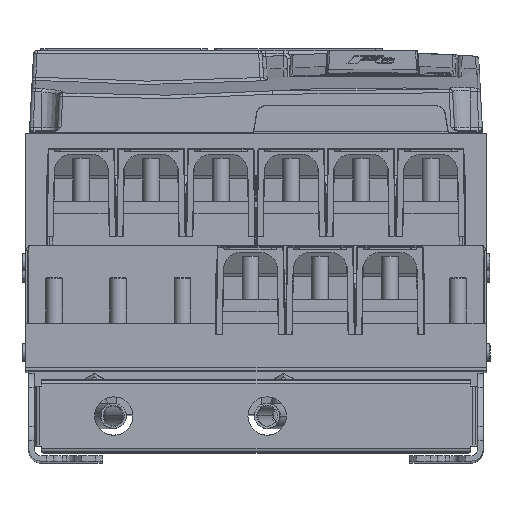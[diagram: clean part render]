
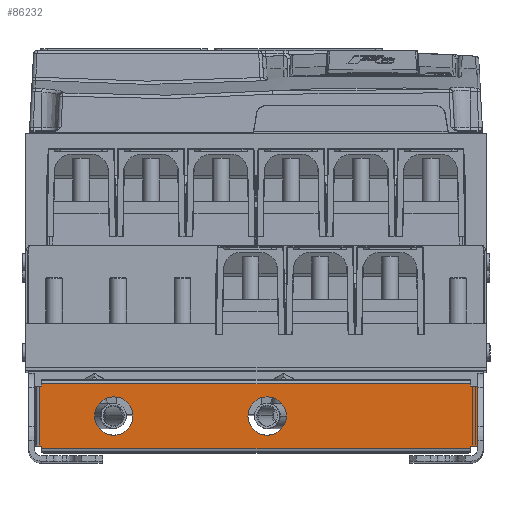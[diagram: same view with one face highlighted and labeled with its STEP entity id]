
A CAD part, top view. The second image highlights one B-rep face of the part: STEP entity #86232.
In plain terms, the highlighted planar face has unit normal (0, 0, 1) as drawn and (1, 0, 0) by its records, which use the part's own axes.
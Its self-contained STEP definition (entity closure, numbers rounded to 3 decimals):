
#533 = LINE ( 'NONE', #29607, #30319 ) ;
#2356 = ORIENTED_EDGE ( 'NONE', *, *, #79652, .F. ) ;
#2985 = CARTESIAN_POINT ( 'NONE',  ( 146.1, 20.002, 155.3 ) ) ;
#3353 = LINE ( 'NONE', #75331, #93368 ) ;
#3390 = EDGE_CURVE ( 'NONE', #90226, #61475, #35148, .T. ) ;
#4337 = ORIENTED_EDGE ( 'NONE', *, *, #20018, .T. ) ;
#7986 = ORIENTED_EDGE ( 'NONE', *, *, #20913, .F. ) ;
#8642 = VERTEX_POINT ( 'NONE', #26315 ) ;
#8983 = CIRCLE ( 'NONE', #66847, 13.75 ) ;
#9412 = DIRECTION ( 'NONE',  ( 0., -1., 0. ) ) ;
#9694 = CARTESIAN_POINT ( 'NONE',  ( 146.1, 25.002, -153.5 ) ) ;
#9863 = LINE ( 'NONE', #46569, #20005 ) ;
#10421 = LINE ( 'NONE', #32364, #53760 ) ;
#11120 = VECTOR ( 'NONE', #51810, 1000. ) ;
#12577 = DIRECTION ( 'NONE',  ( 0., 0., 1. ) ) ;
#12994 = DIRECTION ( 'NONE',  ( 1., 0., 0. ) ) ;
#14182 = ORIENTED_EDGE ( 'NONE', *, *, #66955, .F. ) ;
#14791 = DIRECTION ( 'NONE',  ( 0., 0., 1. ) ) ;
#15726 = LINE ( 'NONE', #30969, #33628 ) ;
#17695 = CIRCLE ( 'NONE', #89204, 13.75 ) ;
#17703 = CARTESIAN_POINT ( 'NONE',  ( 146.1, -22.998, -153.5 ) ) ;
#20005 = VECTOR ( 'NONE', #75631, 1000. ) ;
#20018 = EDGE_CURVE ( 'NONE', #62106, #42930, #88028, .T. ) ;
#20913 = EDGE_CURVE ( 'NONE', #62106, #68687, #3353, .T. ) ;
#21931 = CARTESIAN_POINT ( 'NONE',  ( 146.1, -22.998, 158.5 ) ) ;
#22604 = DIRECTION ( 'NONE',  ( 0., 1., 0. ) ) ;
#22750 = CARTESIAN_POINT ( 'NONE',  ( 146.1, -24.798, 158.5 ) ) ;
#23253 = CARTESIAN_POINT ( 'NONE',  ( 146.1, -22.998, 155.3 ) ) ;
#23316 = EDGE_CURVE ( 'NONE', #74276, #34482, #62151, .T. ) ;
#23899 = CIRCLE ( 'NONE', #72602, 13.75 ) ;
#23990 = EDGE_CURVE ( 'NONE', #8642, #90226, #15726, .T. ) ;
#25102 = ORIENTED_EDGE ( 'NONE', *, *, #23990, .F. ) ;
#25492 = DIRECTION ( 'NONE',  ( 0., 1., 0. ) ) ;
#25958 = AXIS2_PLACEMENT_3D ( 'NONE', #83665, #12994, #76511 ) ;
#26315 = CARTESIAN_POINT ( 'NONE',  ( 146.1, 20.002, -159. ) ) ;
#26451 = DIRECTION ( 'NONE',  ( 0., 0., -1. ) ) ;
#26864 = VECTOR ( 'NONE', #25492, 1000. ) ;
#27835 = DIRECTION ( 'NONE',  ( -1., 0., 0. ) ) ;
#28024 = CARTESIAN_POINT ( 'NONE',  ( 146.1, -22.998, -158.5 ) ) ;
#28490 = DIRECTION ( 'NONE',  ( 0., 0., 1. ) ) ;
#29217 = FACE_BOUND ( 'NONE', #88714, .T. ) ;
#29607 = CARTESIAN_POINT ( 'NONE',  ( 146.1, -27.998, -153.5 ) ) ;
#30319 = VECTOR ( 'NONE', #79656, 1000. ) ;
#30482 = VECTOR ( 'NONE', #14791, 1000. ) ;
#30969 = CARTESIAN_POINT ( 'NONE',  ( 146.1, 20.002, -159. ) ) ;
#31440 = DIRECTION ( 'NONE',  ( 0., -1., 0. ) ) ;
#31693 = ORIENTED_EDGE ( 'NONE', *, *, #42509, .F. ) ;
#32364 = CARTESIAN_POINT ( 'NONE',  ( 146.1, 20.002, 158.5 ) ) ;
#32628 = LINE ( 'NONE', #62650, #26864 ) ;
#32639 = CARTESIAN_POINT ( 'NONE',  ( 146.1, -1.498, -21.75 ) ) ;
#33628 = VECTOR ( 'NONE', #31440, 1000. ) ;
#34482 = VERTEX_POINT ( 'NONE', #60372 ) ;
#34929 = ORIENTED_EDGE ( 'NONE', *, *, #3390, .F. ) ;
#35035 = EDGE_CURVE ( 'NONE', #61475, #42930, #533, .T. ) ;
#35148 = LINE ( 'NONE', #28024, #39655 ) ;
#35400 = ORIENTED_EDGE ( 'NONE', *, *, #44906, .F. ) ;
#35674 = CARTESIAN_POINT ( 'NONE',  ( 146.1, 21.802, 155.3 ) ) ;
#36037 = EDGE_CURVE ( 'NONE', #81130, #63779, #67053, .T. ) ;
#36531 = CARTESIAN_POINT ( 'NONE',  ( 146.1, -1.498, 102. ) ) ;
#38747 = DIRECTION ( 'NONE',  ( 0., -1., 0. ) ) ;
#39655 = VECTOR ( 'NONE', #28490, 1000. ) ;
#40411 = EDGE_CURVE ( 'NONE', #74276, #69045, #46861, .T. ) ;
#42509 = EDGE_CURVE ( 'NONE', #67759, #34482, #32628, .T. ) ;
#42566 = CARTESIAN_POINT ( 'NONE',  ( 146.1, -1.498, 0. ) ) ;
#42889 = AXIS2_PLACEMENT_3D ( 'NONE', #42566, #27835, #57857 ) ;
#42930 = VERTEX_POINT ( 'NONE', #77267 ) ;
#43040 = FACE_BOUND ( 'NONE', #81967, .T. ) ;
#44906 = EDGE_CURVE ( 'NONE', #80930, #89453, #8983, .T. ) ;
#45613 = VECTOR ( 'NONE', #12577, 1000. ) ;
#46569 = CARTESIAN_POINT ( 'NONE',  ( 146.1, 20.002, -158.5 ) ) ;
#46861 = LINE ( 'NONE', #9694, #67892 ) ;
#47373 = CARTESIAN_POINT ( 'NONE',  ( 146.1, 21.802, 158.5 ) ) ;
#49419 = DIRECTION ( 'NONE',  ( 0., 0., -1. ) ) ;
#51810 = DIRECTION ( 'NONE',  ( 0., 0., -1. ) ) ;
#53613 = ORIENTED_EDGE ( 'NONE', *, *, #23316, .T. ) ;
#53760 = VECTOR ( 'NONE', #90499, 1000. ) ;
#54213 = EDGE_CURVE ( 'NONE', #69571, #75977, #71913, .T. ) ;
#57091 = ORIENTED_EDGE ( 'NONE', *, *, #40411, .F. ) ;
#57857 = DIRECTION ( 'NONE',  ( 0., 0., 1. ) ) ;
#60372 = CARTESIAN_POINT ( 'NONE',  ( 146.1, 21.802, 153.5 ) ) ;
#61475 = VERTEX_POINT ( 'NONE', #17703 ) ;
#61742 = EDGE_CURVE ( 'NONE', #68687, #75977, #79607, .T. ) ;
#62106 = VERTEX_POINT ( 'NONE', #66652 ) ;
#62151 = LINE ( 'NONE', #47373, #45613 ) ;
#62650 = CARTESIAN_POINT ( 'NONE',  ( 146.1, 25.002, 153.5 ) ) ;
#63779 = VERTEX_POINT ( 'NONE', #85536 ) ;
#65154 = CARTESIAN_POINT ( 'NONE',  ( 146.1, 20.002, 153.5 ) ) ;
#66652 = CARTESIAN_POINT ( 'NONE',  ( 146.1, -24.798, 153.5 ) ) ;
#66847 = AXIS2_PLACEMENT_3D ( 'NONE', #92775, #86102, #49419 ) ;
#66955 = EDGE_CURVE ( 'NONE', #63779, #81130, #17695, .T. ) ;
#67053 = CIRCLE ( 'NONE', #25958, 13.75 ) ;
#67759 = VERTEX_POINT ( 'NONE', #65154 ) ;
#67892 = VECTOR ( 'NONE', #38747, 1000. ) ;
#68564 = ORIENTED_EDGE ( 'NONE', *, *, #71344, .F. ) ;
#68687 = VERTEX_POINT ( 'NONE', #71942 ) ;
#69045 = VERTEX_POINT ( 'NONE', #84709 ) ;
#69108 = EDGE_CURVE ( 'NONE', #89453, #80930, #23899, .T. ) ;
#69571 = VERTEX_POINT ( 'NONE', #2985 ) ;
#69723 = ORIENTED_EDGE ( 'NONE', *, *, #54213, .T. ) ;
#71344 = EDGE_CURVE ( 'NONE', #69571, #67759, #10421, .T. ) ;
#71695 = CARTESIAN_POINT ( 'NONE',  ( 146.1, -1.498, -8. ) ) ;
#71913 = LINE ( 'NONE', #35674, #86416 ) ;
#71942 = CARTESIAN_POINT ( 'NONE',  ( 146.1, -22.998, 153.5 ) ) ;
#72602 = AXIS2_PLACEMENT_3D ( 'NONE', #36531, #88470, #87992 ) ;
#74276 = VERTEX_POINT ( 'NONE', #83957 ) ;
#74500 = CARTESIAN_POINT ( 'NONE',  ( 146.1, -22.998, -159. ) ) ;
#75331 = CARTESIAN_POINT ( 'NONE',  ( 146.1, -27.998, 153.5 ) ) ;
#75631 = DIRECTION ( 'NONE',  ( 0., 0., -1. ) ) ;
#75977 = VERTEX_POINT ( 'NONE', #23253 ) ;
#76511 = DIRECTION ( 'NONE',  ( 0., 0., -1. ) ) ;
#77267 = CARTESIAN_POINT ( 'NONE',  ( 146.1, -24.798, -153.5 ) ) ;
#79607 = LINE ( 'NONE', #21931, #30482 ) ;
#79652 = EDGE_CURVE ( 'NONE', #69045, #8642, #9863, .T. ) ;
#79656 = DIRECTION ( 'NONE',  ( 0., -1., 0. ) ) ;
#80193 = PLANE ( 'NONE',  #42889 ) ;
#80930 = VERTEX_POINT ( 'NONE', #84326 ) ;
#81130 = VERTEX_POINT ( 'NONE', #32639 ) ;
#81967 = EDGE_LOOP ( 'NONE', ( #85763, #14182 ) ) ;
#82256 = EDGE_LOOP ( 'NONE', ( #34929, #25102, #2356, #57091, #53613, #31693, #68564, #69723, #83958, #7986, #4337, #92981 ) ) ;
#83665 = CARTESIAN_POINT ( 'NONE',  ( 146.1, -1.498, -8. ) ) ;
#83923 = ORIENTED_EDGE ( 'NONE', *, *, #69108, .F. ) ;
#83957 = CARTESIAN_POINT ( 'NONE',  ( 146.1, 21.802, -153.5 ) ) ;
#83958 = ORIENTED_EDGE ( 'NONE', *, *, #61742, .F. ) ;
#84326 = CARTESIAN_POINT ( 'NONE',  ( 146.1, -1.498, 115.75 ) ) ;
#84461 = CARTESIAN_POINT ( 'NONE',  ( 146.1, -1.498, 88.25 ) ) ;
#84709 = CARTESIAN_POINT ( 'NONE',  ( 146.1, 20.002, -153.5 ) ) ;
#85514 = DIRECTION ( 'NONE',  ( 1., 0., 0. ) ) ;
#85536 = CARTESIAN_POINT ( 'NONE',  ( 146.1, -1.498, 5.75 ) ) ;
#85763 = ORIENTED_EDGE ( 'NONE', *, *, #36037, .F. ) ;
#86102 = DIRECTION ( 'NONE',  ( 1., 0., 0. ) ) ;
#86232 = ADVANCED_FACE ( 'NONE', ( #43040, #29217, #87354 ), #80193, .F. ) ;
#86416 = VECTOR ( 'NONE', #9412, 1000. ) ;
#87354 = FACE_OUTER_BOUND ( 'NONE', #82256, .T. ) ;
#87992 = DIRECTION ( 'NONE',  ( 0., 0., -1. ) ) ;
#88028 = LINE ( 'NONE', #22750, #11120 ) ;
#88470 = DIRECTION ( 'NONE',  ( 1., 0., 0. ) ) ;
#88714 = EDGE_LOOP ( 'NONE', ( #83923, #35400 ) ) ;
#89204 = AXIS2_PLACEMENT_3D ( 'NONE', #71695, #85514, #26451 ) ;
#89453 = VERTEX_POINT ( 'NONE', #84461 ) ;
#90226 = VERTEX_POINT ( 'NONE', #74500 ) ;
#90499 = DIRECTION ( 'NONE',  ( 0., 0., -1. ) ) ;
#92775 = CARTESIAN_POINT ( 'NONE',  ( 146.1, -1.498, 102. ) ) ;
#92981 = ORIENTED_EDGE ( 'NONE', *, *, #35035, .F. ) ;
#93368 = VECTOR ( 'NONE', #22604, 1000. ) ;
